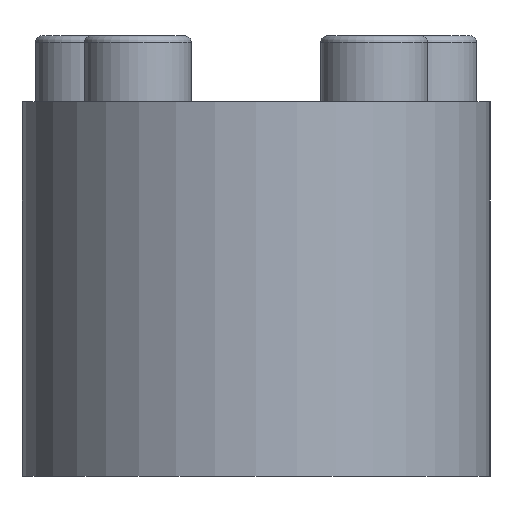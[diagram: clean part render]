
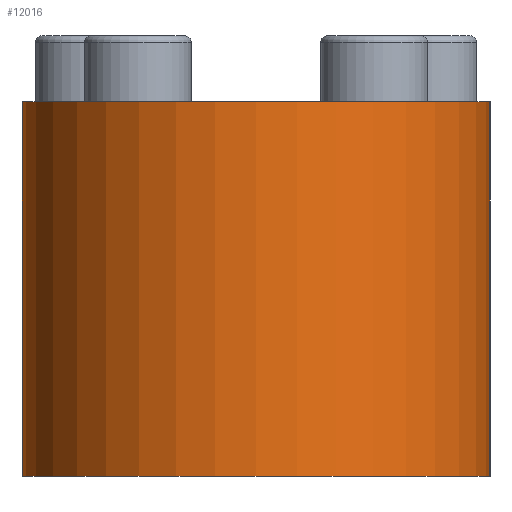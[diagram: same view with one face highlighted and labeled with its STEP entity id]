
A CAD part, left-side view. The second image highlights one B-rep face of the part: STEP entity #12016.
In plain terms, the highlighted cylindrical face has radius 35 mm (diameter 70 mm), a partial arc.
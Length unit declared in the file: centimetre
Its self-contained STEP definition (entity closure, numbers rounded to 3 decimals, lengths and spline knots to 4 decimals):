
#960=CYLINDRICAL_SURFACE('',#12700,3.5);
#1670=FACE_OUTER_BOUND('',#2350,.T.);
#2350=EDGE_LOOP('',(#8225,#8226,#8227,#8228));
#3165=LINE('',#15450,#4223);
#3166=LINE('',#15454,#4224);
#4223=VECTOR('',#13269,5.6);
#4224=VECTOR('',#13272,5.6);
#5281=CIRCLE('',#12701,3.5);
#5282=CIRCLE('',#12702,3.5);
#5369=VERTEX_POINT('',#15448);
#5370=VERTEX_POINT('',#15449);
#5371=VERTEX_POINT('',#15451);
#5372=VERTEX_POINT('',#15453);
#6525=EDGE_CURVE('',#5369,#5370,#3165,.T.);
#6526=EDGE_CURVE('',#5371,#5370,#5281,.T.);
#6527=EDGE_CURVE('',#5372,#5371,#3166,.T.);
#6528=EDGE_CURVE('',#5369,#5372,#5282,.T.);
#8225=ORIENTED_EDGE('',*,*,#6525,.T.);
#8226=ORIENTED_EDGE('',*,*,#6526,.F.);
#8227=ORIENTED_EDGE('',*,*,#6527,.F.);
#8228=ORIENTED_EDGE('',*,*,#6528,.F.);
#12016=ADVANCED_FACE('',(#1670),#960,.T.);
#12700=AXIS2_PLACEMENT_3D('',#15447,#13267,#13268);
#12701=AXIS2_PLACEMENT_3D('',#15452,#13270,#13271);
#12702=AXIS2_PLACEMENT_3D('',#15455,#13273,#13274);
#13267=DIRECTION('center_axis',(0.,0.,
-1.));
#13268=DIRECTION('ref_axis',(0.,1.,0.));
#13269=DIRECTION('',(0.,0.,1.));
#13270=DIRECTION('center_axis',(0.,0.,
1.));
#13271=DIRECTION('ref_axis',(0.,1.,0.));
#13272=DIRECTION('',(0.,0.,1.));
#13273=DIRECTION('center_axis',(0.,0.,-1.));
#13274=DIRECTION('ref_axis',(0.,-1.,0.));
#15447=CARTESIAN_POINT('Origin',(-23.3,0.,5.6));
#15448=CARTESIAN_POINT('',(-23.3,-3.5,0.));
#15449=CARTESIAN_POINT('',(-23.3,-3.5,5.6));
#15450=CARTESIAN_POINT('',(-23.3,-3.5,0.));
#15451=CARTESIAN_POINT('',(-23.3,3.5,5.6));
#15452=CARTESIAN_POINT('Origin',(-23.3,0.,5.6));
#15453=CARTESIAN_POINT('',(-23.3,3.5,0.));
#15454=CARTESIAN_POINT('',(-23.3,3.5,0.));
#15455=CARTESIAN_POINT('Origin',(-23.3,0.,0.));
